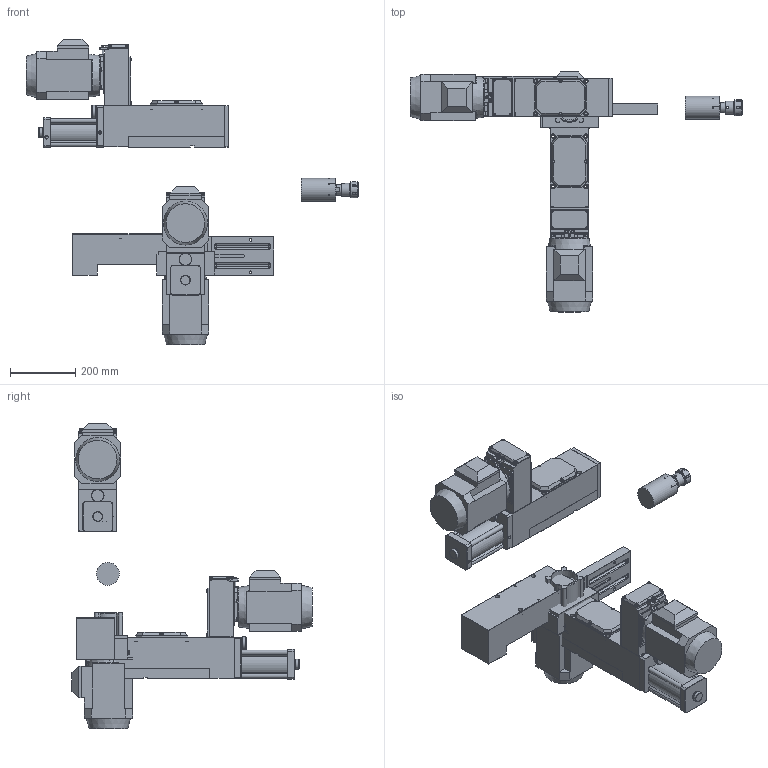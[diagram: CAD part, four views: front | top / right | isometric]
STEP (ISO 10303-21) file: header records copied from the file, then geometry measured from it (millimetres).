
FILE_DESCRIPTION( ( 'STEP AP203' ), '1' );
FILE_NAME( 'C:/Documents and Settings/Saverio/Desktop/disegni ironcad/unità serie 1/F 114/F 114_ER32_P.stp', '2013-12-10T14:50:04', ( ' ' ), ( ' ' ), 'XStep 1.0', ' ', ' ' );
FILE_SCHEMA( ( 'CONFIG_CONTROL_DESIGN' ) );
Length unit declared in the file: metre
Products named in the file (41): Assem1; Assem2; Assem3; 1; 2; 3; 4; 5; 6; 7; 8; 9; 10; 11; 12; 13; 14; 15; 16; 17; 18; 19; 20; 21; 22; 23; 24; 25; 26; 27; 28; 29; 30; 31; 32; 33; 34; 35; 36; 37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
Bounding box: 1019.39 x 737.2 x 939.13 mm (x, y, z)
Volume: 31458471.5 mm3; surface area: 3086845 mm2
Topology: 114 solids, 117 shells, 2646 faces, 5961 edges, 3663 vertices
Faces by surface type: plane 1701, cylinder 477, cone 372, sphere 60, bspline 24, torus 12
Full cylindrical faces by diameter (mm): 4.5 x12, 5 x27, 5.5 x15, 6 x30, 6.5 x6, 6.75 x6, 6.9 x12, 8.385 x3, 8.5 x24, 9.87 x12, 10.25 x6, 13.5 x12, 18 x9, 20 x3, 23 x3, 27 x3, 27.5 x3, 30 x9, 32 x3, 36 x3, 38.5 x3, 39 x3, 40 x3, 47 x3, 50 x3, 52 x6, 52.5 x3, 54 x6, 54.4 x3, 70 x3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
Entity records: 26271 total; most frequent: CARTESIAN_POINT 5606, DIRECTION 3939, ORIENTED_EDGE 3518, EDGE_CURVE 1759, AXIS2_PLACEMENT_3D 1408, VERTEX_POINT 1193, EDGE_LOOP 1176, LINE 1123
